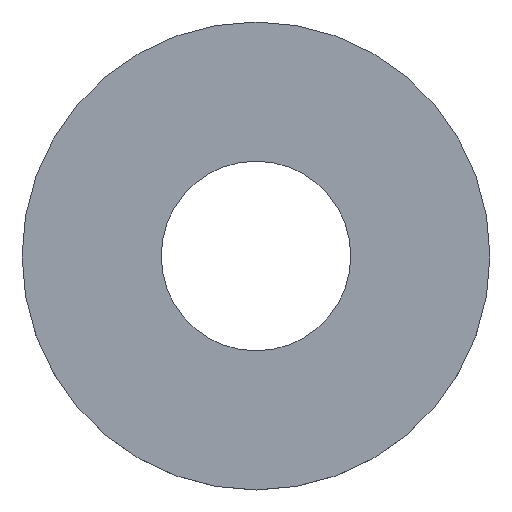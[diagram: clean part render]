
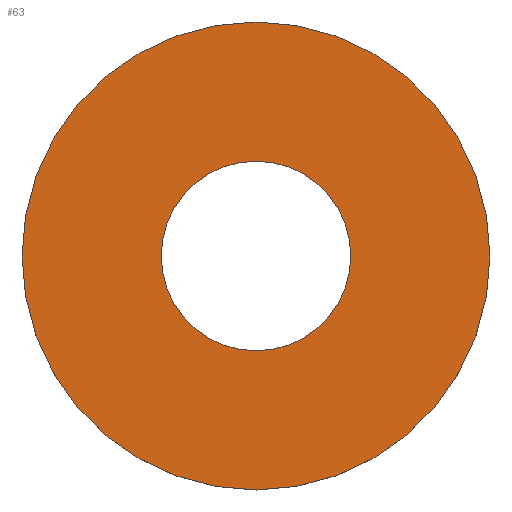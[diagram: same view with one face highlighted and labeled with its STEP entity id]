
A CAD part, top view. The second image highlights one B-rep face of the part: STEP entity #63.
In plain terms, the highlighted planar face has unit normal (0, 0, 1).
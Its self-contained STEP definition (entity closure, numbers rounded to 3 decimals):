
#15=FACE_BOUND('',#26,.T.);
#17=PLANE('',#94);
#21=FACE_OUTER_BOUND('',#25,.T.);
#25=EDGE_LOOP('',(#55));
#26=EDGE_LOOP('',(#56));
#34=CIRCLE('',#90,4.05);
#36=CIRCLE('',#93,10.);
#38=VERTEX_POINT('',#120);
#40=VERTEX_POINT('',#126);
#43=EDGE_CURVE('',#38,#38,#34,.T.);
#46=EDGE_CURVE('',#40,#40,#36,.T.);
#55=ORIENTED_EDGE('',*,*,#46,.T.);
#56=ORIENTED_EDGE('',*,*,#43,.T.);
#63=ADVANCED_FACE('',(#21,#15),#17,.T.);
#90=AXIS2_PLACEMENT_3D('',#122,#103,#104);
#93=AXIS2_PLACEMENT_3D('',#128,#110,#111);
#94=AXIS2_PLACEMENT_3D('',#129,#112,#113);
#103=DIRECTION('center_axis',(0.,0.,-1.));
#104=DIRECTION('ref_axis',(-1.,0.,0.));
#110=DIRECTION('center_axis',(0.,0.,1.));
#111=DIRECTION('ref_axis',(1.,0.,0.));
#112=DIRECTION('center_axis',(0.,0.,1.));
#113=DIRECTION('ref_axis',(1.,0.,0.));
#120=CARTESIAN_POINT('',(4.05,0.,0.));
#122=CARTESIAN_POINT('Origin',(0.,0.,0.));
#126=CARTESIAN_POINT('',(-10.,0.,0.));
#128=CARTESIAN_POINT('Origin',(0.,0.,0.));
#129=CARTESIAN_POINT('Origin',(0.,0.,0.));
